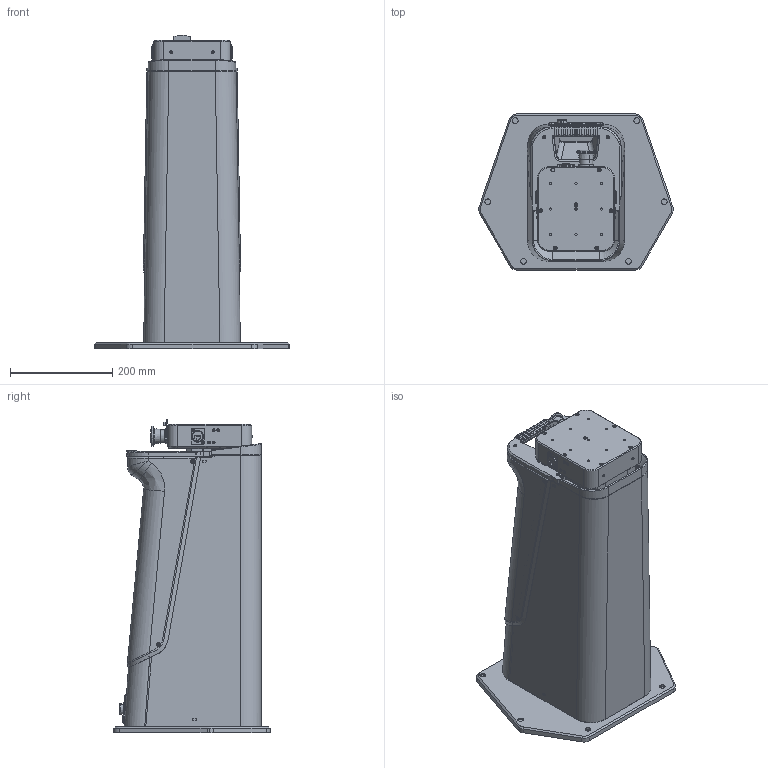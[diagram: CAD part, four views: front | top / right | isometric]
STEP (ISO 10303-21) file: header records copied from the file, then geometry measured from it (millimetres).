
FILE_DESCRIPTION (( 'STEP AP214' ), '1' );
FILE_NAME ('铝方管伸缩升降 最小缩回.STEP', '2026-07-30T11:25:59', ( '' ), ( '' ), 'SwSTEP 2.0', 'SolidWorks 2024', '' );
FILE_SCHEMA (( 'AUTOMOTIVE_DESIGN' ));
Length unit declared in the file: millimetre
Products named in the file (3): 伸缩部分; 铝方管伸缩升降 最小缩回; 底座部分
Assembly tree (2 placements, depth 2):
  铝方管伸缩升降 最小缩回
    底座部分
    伸缩部分
Bounding box: 382 x 306 x 614.35 mm (x, y, z)
Volume: 25022798.5 mm3; surface area: 1611172.3 mm2
Topology: 15 solids, 37 shells, 3830 faces, 9344 edges, 5736 vertices
Faces by surface type: plane 1671, cylinder 1044, cone 581, bspline 294, torus 192, sphere 48
Entity records: 163989 total; most frequent: CARTESIAN_POINT 52852, ORIENTED_EDGE 18580, DIRECTION 17620, EDGE_CURVE 9290, AXIS2_PLACEMENT_3D 6413, VERTEX_POINT 5736, VECTOR 4794, LINE 4794
